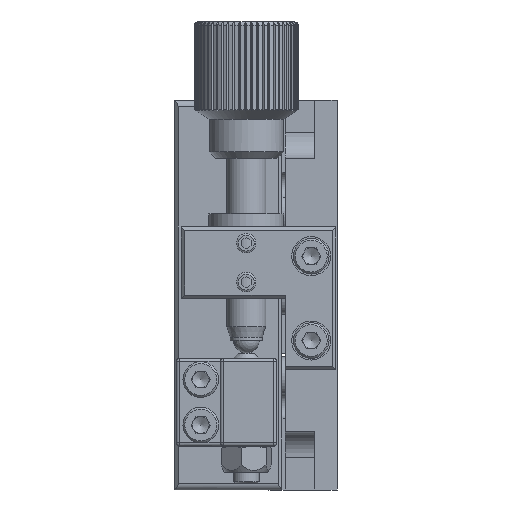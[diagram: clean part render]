
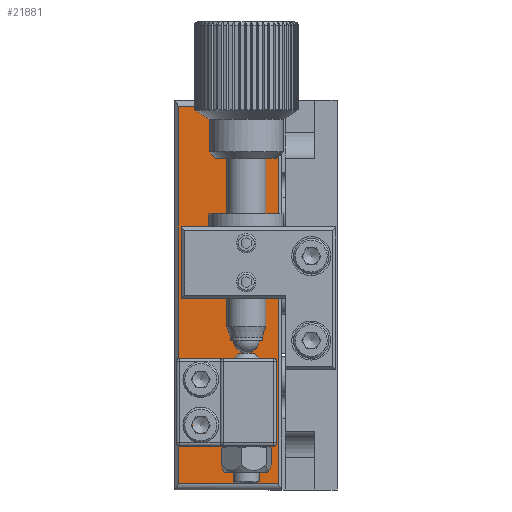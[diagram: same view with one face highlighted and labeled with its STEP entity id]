
A CAD part, left-side view. The second image highlights one B-rep face of the part: STEP entity #21881.
In plain terms, the highlighted planar face has unit normal (-1, 0, 0).
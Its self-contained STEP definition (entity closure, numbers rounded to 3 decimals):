
#652 = CARTESIAN_POINT ( 'NONE',  ( -214.801, -841.95, 248.678 ) ) ;
#653 = DIRECTION ( 'NONE',  ( 0., -1., 0. ) ) ;
#702 = CARTESIAN_POINT ( 'NONE',  ( -214.801, -837.95, 277.678 ) ) ;
#703 = DIRECTION ( 'NONE',  ( -1., 0., 0. ) ) ;
#704 = DIRECTION ( 'NONE',  ( 0., 0., 1. ) ) ;
#712 = CARTESIAN_POINT ( 'NONE',  ( -214.801, -833.7, 306.678 ) ) ;
#713 = DIRECTION ( 'NONE',  ( 0., 1., 0. ) ) ;
#1392 = CARTESIAN_POINT ( 'NONE',  ( -214.801, -841.45, 248.678 ) ) ;
#1408 = CARTESIAN_POINT ( 'NONE',  ( -214.801, -825.95, 248.678 ) ) ;
#1409 = CARTESIAN_POINT ( 'NONE',  ( -214.801, -825.95, 306.678 ) ) ;
#1454 = CARTESIAN_POINT ( 'NONE',  ( -214.801, -841.45, 306.678 ) ) ;
#2413 = FACE_OUTER_BOUND ( 'NONE', #6340, .T. ) ;
#2414 = FACE_BOUND ( 'NONE', #6903, .T. ) ;
#2415 = FACE_BOUND ( 'NONE', #6142, .T. ) ;
#2417 = FACE_BOUND ( 'NONE', #6826, .T. ) ;
#2419 = FACE_BOUND ( 'NONE', #6641, .T. ) ;
#2426 = FACE_BOUND ( 'NONE', #6311, .T. ) ;
#2917 = VECTOR ( 'NONE', #713, 1000. ) ;
#2920 = LINE ( 'NONE', #712, #2917 ) ;
#2930 = CIRCLE ( 'NONE', #10547, 1.5 ) ;
#2961 = VECTOR ( 'NONE', #653, 1000. ) ;
#2964 = LINE ( 'NONE', #652, #2961 ) ;
#3018 = VECTOR ( 'NONE', #6144, 1000. ) ;
#3021 = LINE ( 'NONE', #6141, #3018 ) ;
#3216 = CIRCLE ( 'NONE', #10506, 1.5 ) ;
#3313 = CIRCLE ( 'NONE', #10496, 1.5 ) ;
#5475 = CARTESIAN_POINT ( 'NONE',  ( -214.801, -837.95, 260.678 ) ) ;
#5477 = DIRECTION ( 'NONE',  ( -1., 0., 0. ) ) ;
#5479 = DIRECTION ( 'NONE',  ( 0., 0., 1. ) ) ;
#5728 = CARTESIAN_POINT ( 'NONE',  ( -214.801, -837.95, 294.678 ) ) ;
#5730 = DIRECTION ( 'NONE',  ( -1., 0., 0. ) ) ;
#5732 = DIRECTION ( 'NONE',  ( 0., 0., 1. ) ) ;
#6141 = CARTESIAN_POINT ( 'NONE',  ( -214.801, -825.95, 307.678 ) ) ;
#6142 = EDGE_LOOP ( 'NONE', ( #6486 ) ) ;
#6144 = DIRECTION ( 'NONE',  ( 0., 0., -1. ) ) ;
#6232 = ORIENTED_EDGE ( 'NONE', *, *, #17357, .F. ) ;
#6311 = EDGE_LOOP ( 'NONE', ( #6627 ) ) ;
#6340 = EDGE_LOOP ( 'NONE', ( #6510, #6509, #6446, #6508 ) ) ;
#6446 = ORIENTED_EDGE ( 'NONE', *, *, #17564, .T. ) ;
#6486 = ORIENTED_EDGE ( 'NONE', *, *, #17585, .F. ) ;
#6488 = ORIENTED_EDGE ( 'NONE', *, *, #17412, .F. ) ;
#6508 = ORIENTED_EDGE ( 'NONE', *, *, #21926, .T. ) ;
#6509 = ORIENTED_EDGE ( 'NONE', *, *, #17530, .T. ) ;
#6510 = ORIENTED_EDGE ( 'NONE', *, *, #17590, .T. ) ;
#6627 = ORIENTED_EDGE ( 'NONE', *, *, #21950, .F. ) ;
#6641 = EDGE_LOOP ( 'NONE', ( #6488 ) ) ;
#6693 = ORIENTED_EDGE ( 'NONE', *, *, #21996, .F. ) ;
#6826 = EDGE_LOOP ( 'NONE', ( #6232 ) ) ;
#6903 = EDGE_LOOP ( 'NONE', ( #6693 ) ) ;
#8147 = CARTESIAN_POINT ( 'NONE',  ( -214.801, -829.45, 257.678 ) ) ;
#8148 = DIRECTION ( 'NONE',  ( -1., 0., 0. ) ) ;
#8149 = DIRECTION ( 'NONE',  ( 0., 0., 1. ) ) ;
#8258 = CARTESIAN_POINT ( 'NONE',  ( -214.801, -829.45, 264.678 ) ) ;
#8259 = DIRECTION ( 'NONE',  ( -1., 0., 0. ) ) ;
#8260 = DIRECTION ( 'NONE',  ( 0., 0., 1. ) ) ;
#8442 = CARTESIAN_POINT ( 'NONE',  ( -214.801, -837.95, 262.178 ) ) ;
#8449 = CARTESIAN_POINT ( 'NONE',  ( -214.801, -837.95, 296.178 ) ) ;
#8473 = CARTESIAN_POINT ( 'NONE',  ( -214.801, -837.95, 279.178 ) ) ;
#8484 = CARTESIAN_POINT ( 'NONE',  ( -214.801, -829.45, 258.928 ) ) ;
#8491 = CARTESIAN_POINT ( 'NONE',  ( -214.801, -829.45, 265.928 ) ) ;
#10138 = DIRECTION ( 'NONE',  ( -1., 0., 0. ) ) ;
#10142 = PLANE ( 'NONE',  #22093 ) ;
#10143 = CARTESIAN_POINT ( 'NONE',  ( -214.801, -833.7, 307.678 ) ) ;
#10145 = DIRECTION ( 'NONE',  ( 0., 0., 1. ) ) ;
#10259 = DIRECTION ( 'NONE',  ( 0., 0., 1. ) ) ;
#10266 = CARTESIAN_POINT ( 'NONE',  ( -214.801, -841.45, 306.678 ) ) ;
#10496 = AXIS2_PLACEMENT_3D ( 'NONE', #5475, #5477, #5479 ) ;
#10506 = AXIS2_PLACEMENT_3D ( 'NONE', #5728, #5730, #5732 ) ;
#10547 = AXIS2_PLACEMENT_3D ( 'NONE', #702, #703, #704 ) ;
#17357 = EDGE_CURVE ( 'NONE', #24612, #24612, #3313, .T. ) ;
#17412 = EDGE_CURVE ( 'NONE', #24605, #24605, #3216, .T. ) ;
#17530 = EDGE_CURVE ( 'NONE', #20350, #20349, #3021, .T. ) ;
#17564 = EDGE_CURVE ( 'NONE', #20349, #20331, #2964, .T. ) ;
#17585 = EDGE_CURVE ( 'NONE', #24581, #24581, #2930, .T. ) ;
#17590 = EDGE_CURVE ( 'NONE', #20395, #20350, #2920, .T. ) ;
#20331 = VERTEX_POINT ( 'NONE', #1392 ) ;
#20349 = VERTEX_POINT ( 'NONE', #1408 ) ;
#20350 = VERTEX_POINT ( 'NONE', #1409 ) ;
#20395 = VERTEX_POINT ( 'NONE', #1454 ) ;
#21881 = ADVANCED_FACE ( 'NONE', ( #2426, #2414, #2419, #2415, #2417, #2413 ), #10142, .T. ) ;
#21926 = EDGE_CURVE ( 'NONE', #20331, #20395, #24894, .T. ) ;
#21950 = EDGE_CURVE ( 'NONE', #24570, #24570, #24851, .T. ) ;
#21996 = EDGE_CURVE ( 'NONE', #24563, #24563, #24780, .T. ) ;
#22093 = AXIS2_PLACEMENT_3D ( 'NONE', #10143, #10138, #10145 ) ;
#22126 = AXIS2_PLACEMENT_3D ( 'NONE', #8147, #8148, #8149 ) ;
#22144 = AXIS2_PLACEMENT_3D ( 'NONE', #8258, #8259, #8260 ) ;
#24563 = VERTEX_POINT ( 'NONE', #8491 ) ;
#24570 = VERTEX_POINT ( 'NONE', #8484 ) ;
#24581 = VERTEX_POINT ( 'NONE', #8473 ) ;
#24605 = VERTEX_POINT ( 'NONE', #8449 ) ;
#24612 = VERTEX_POINT ( 'NONE', #8442 ) ;
#24780 = CIRCLE ( 'NONE', #22144, 1.25 ) ;
#24851 = CIRCLE ( 'NONE', #22126, 1.25 ) ;
#24892 = VECTOR ( 'NONE', #10259, 1000. ) ;
#24894 = LINE ( 'NONE', #10266, #24892 ) ;
